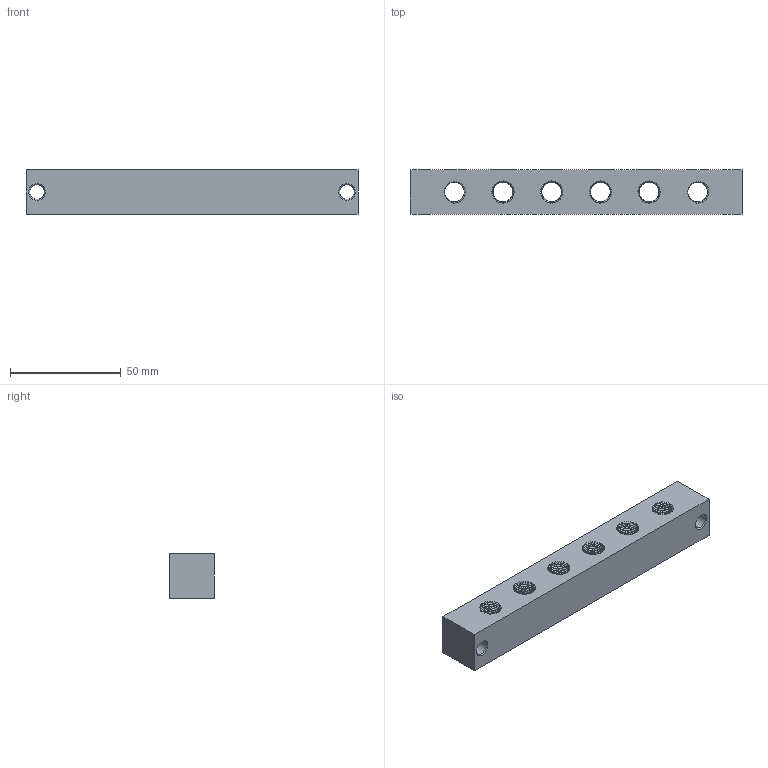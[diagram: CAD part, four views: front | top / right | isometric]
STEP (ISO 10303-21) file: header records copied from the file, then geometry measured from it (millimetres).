
FILE_DESCRIPTION (( 'STEP AP214' ), '1' );
FILE_NAME ('1460_01_06_ASL-06.STEP', '2026-01-26T13:59:58', ( '' ), ( '' ), 'SwSTEP 2.0', 'SolidWorks 2022', '' );
FILE_SCHEMA (( 'AUTOMOTIVE_DESIGN' ));
Products named in the file (1): 1460_01_06_ASL-06
Bounding box: 150 x 20 x 20 mm (x, y, z)
Volume: 47564.5 mm3; surface area: 18689 mm2
Topology: 1 solids, 1 shells, 248 faces, 784 edges, 526 vertices
Faces by surface type: bspline 160, cylinder 48, plane 24, cone 16
Full cylindrical faces by diameter (mm): 6.5 x2
Entity records: 65326 total; most frequent: CARTESIAN_POINT 60505, ORIENTED_EDGE 1552, EDGE_CURVE 776, VERTEX_POINT 524, B_SPLINE_CURVE_WITH_KNOTS 360, DIRECTION 338, EDGE_LOOP 282, FACE_OUTER_BOUND 250
